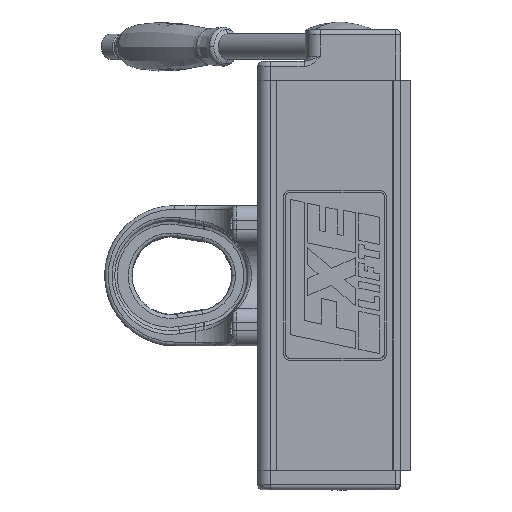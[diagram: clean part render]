
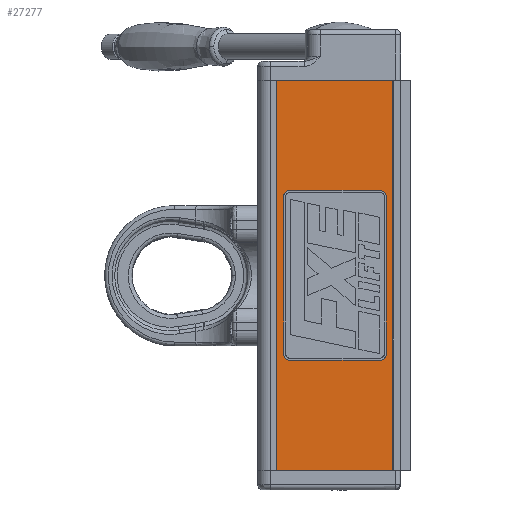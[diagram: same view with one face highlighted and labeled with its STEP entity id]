
A CAD part, left-side view. The second image highlights one B-rep face of the part: STEP entity #27277.
In plain terms, the highlighted planar face has unit normal (-1, 0, 0).
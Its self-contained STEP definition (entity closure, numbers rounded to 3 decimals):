
#244 = CARTESIAN_POINT ( 'NONE',  ( -75.5, 49.5, -152.5 ) ) ;
#426 = LINE ( 'NONE', #37227, #18200 ) ;
#702 = CARTESIAN_POINT ( 'NONE',  ( -75.5, -36.75, 64.706 ) ) ;
#1469 = DIRECTION ( 'NONE',  ( 0., 0., -1. ) ) ;
#1785 = EDGE_CURVE ( 'NONE', #39407, #15661, #6315, .T. ) ;
#1800 = LINE ( 'NONE', #28101, #28352 ) ;
#2101 = CARTESIAN_POINT ( 'NONE',  ( -75.5, 38.383, 66.969 ) ) ;
#3055 = CARTESIAN_POINT ( 'NONE',  ( -75.5, -36.75, 61.943 ) ) ;
#3798 = LINE ( 'NONE', #33505, #33919 ) ;
#3818 = VECTOR ( 'NONE', #15056, 1000. ) ;
#3877 = ORIENTED_EDGE ( 'NONE', *, *, #36248, .T. ) ;
#4168 = ORIENTED_EDGE ( 'NONE', *, *, #18875, .T. ) ;
#4891 = CARTESIAN_POINT ( 'NONE',  ( -75.5, -42.5, -152.5 ) ) ;
#5594 = DIRECTION ( 'NONE',  ( 0., -1., 0. ) ) ;
#6315 = LINE ( 'NONE', #244, #24052 ) ;
#6884 = VECTOR ( 'NONE', #17186, 1000. ) ;
#6902 = ORIENTED_EDGE ( 'NONE', *, *, #15271, .T. ) ;
#7524 = PLANE ( 'NONE',  #14653 ) ;
#7880 = VERTEX_POINT ( 'NONE', #39446 ) ;
#8067 = VERTEX_POINT ( 'NONE', #20602 ) ;
#8348 = B_SPLINE_CURVE_WITH_KNOTS ( 'NONE', 3,
 ( #13970, #14417, #34420, #14566 ),
 .UNSPECIFIED., .F., .F.,
 ( 4, 4 ),
 ( 7., 8. ),
 .UNSPECIFIED. ) ;
#9636 = ORIENTED_EDGE ( 'NONE', *, *, #18952, .T. ) ;
#9921 = VERTEX_POINT ( 'NONE', #37942 ) ;
#10838 = CARTESIAN_POINT ( 'NONE',  ( -75.5, -31.384, -66.469 ) ) ;
#11559 = CARTESIAN_POINT ( 'NONE',  ( -75.5, -36.75, -61.443 ) ) ;
#12756 = EDGE_CURVE ( 'NONE', #27988, #9921, #3798, .T. ) ;
#12908 = LINE ( 'NONE', #4891, #21828 ) ;
#13820 = CARTESIAN_POINT ( 'NONE',  ( -75.5, 3.5, 66.969 ) ) ;
#13970 = CARTESIAN_POINT ( 'NONE',  ( -75.5, 38.383, -66.469 ) ) ;
#14358 = DIRECTION ( 'NONE',  ( 1., 0., 0. ) ) ;
#14417 = CARTESIAN_POINT ( 'NONE',  ( -75.5, 41.335, -66.469 ) ) ;
#14448 = EDGE_CURVE ( 'NONE', #34956, #20292, #20903, .T. ) ;
#14566 = CARTESIAN_POINT ( 'NONE',  ( -75.5, 43.75, -61.443 ) ) ;
#14653 = AXIS2_PLACEMENT_3D ( 'NONE', #34225, #14358, #37504 ) ;
#14724 = B_SPLINE_CURVE_WITH_KNOTS ( 'NONE', 3,
 ( #16318, #42906, #36417, #16607 ),
 .UNSPECIFIED., .F., .F.,
 ( 4, 4 ),
 ( 5., 6. ),
 .UNSPECIFIED. ) ;
#15056 = DIRECTION ( 'NONE',  ( 0., 0., 1. ) ) ;
#15271 = EDGE_CURVE ( 'NONE', #20292, #29202, #33956, .T. ) ;
#15538 = ORIENTED_EDGE ( 'NONE', *, *, #20455, .T. ) ;
#15661 = VERTEX_POINT ( 'NONE', #37093 ) ;
#15710 = CARTESIAN_POINT ( 'NONE',  ( -75.5, 43.75, 61.943 ) ) ;
#16318 = CARTESIAN_POINT ( 'NONE',  ( -75.5, -36.75, -61.443 ) ) ;
#16607 = CARTESIAN_POINT ( 'NONE',  ( -75.5, -31.384, -66.469 ) ) ;
#17186 = DIRECTION ( 'NONE',  ( 0., -1., 0. ) ) ;
#17460 = DIRECTION ( 'NONE',  ( 0., 0., 1. ) ) ;
#17521 = CARTESIAN_POINT ( 'NONE',  ( -75.5, -31.384, 66.969 ) ) ;
#18200 = VECTOR ( 'NONE', #17460, 1000. ) ;
#18239 = DIRECTION ( 'NONE',  ( 0., 1., 0. ) ) ;
#18705 = CARTESIAN_POINT ( 'NONE',  ( -75.5, 43.75, 64.707 ) ) ;
#18875 = EDGE_CURVE ( 'NONE', #8067, #35969, #29295, .T. ) ;
#18952 = EDGE_CURVE ( 'NONE', #18977, #23916, #26978, .T. ) ;
#18977 = VERTEX_POINT ( 'NONE', #15710 ) ;
#19065 = EDGE_CURVE ( 'NONE', #23916, #34956, #33372, .T. ) ;
#19167 = EDGE_CURVE ( 'NONE', #9921, #7880, #8348, .T. ) ;
#20292 = VERTEX_POINT ( 'NONE', #3055 ) ;
#20455 = EDGE_CURVE ( 'NONE', #7880, #18977, #426, .T. ) ;
#20535 = ORIENTED_EDGE ( 'NONE', *, *, #14448, .T. ) ;
#20602 = CARTESIAN_POINT ( 'NONE',  ( -75.5, -42.5, -152.5 ) ) ;
#20675 = CARTESIAN_POINT ( 'NONE',  ( -75.5, -34.334, 66.969 ) ) ;
#20903 = B_SPLINE_CURVE_WITH_KNOTS ( 'NONE', 3,
 ( #40435, #20675, #702, #24017 ),
 .UNSPECIFIED., .F., .F.,
 ( 4, 4 ),
 ( 3., 4. ),
 .UNSPECIFIED. ) ;
#21204 = ORIENTED_EDGE ( 'NONE', *, *, #19065, .T. ) ;
#21828 = VECTOR ( 'NONE', #5594, 1000. ) ;
#22058 = CARTESIAN_POINT ( 'NONE',  ( -75.5, 43.75, 61.943 ) ) ;
#22267 = EDGE_LOOP ( 'NONE', ( #36263, #15538, #9636, #21204, #20535, #6902, #33836, #40663 ) ) ;
#23916 = VERTEX_POINT ( 'NONE', #24900 ) ;
#24017 = CARTESIAN_POINT ( 'NONE',  ( -75.5, -36.75, 61.943 ) ) ;
#24052 = VECTOR ( 'NONE', #39825, 1000. ) ;
#24572 = ORIENTED_EDGE ( 'NONE', *, *, #26474, .T. ) ;
#24900 = CARTESIAN_POINT ( 'NONE',  ( -75.5, 38.383, 66.969 ) ) ;
#24968 = CARTESIAN_POINT ( 'NONE',  ( -75.5, -42.5, -152.5 ) ) ;
#26474 = EDGE_CURVE ( 'NONE', #35969, #39407, #1800, .T. ) ;
#26978 = B_SPLINE_CURVE_WITH_KNOTS ( 'NONE', 3,
 ( #22058, #18705, #31746, #2101 ),
 .UNSPECIFIED., .F., .F.,
 ( 4, 4 ),
 ( 1., 2. ),
 .UNSPECIFIED. ) ;
#27277 = ADVANCED_FACE ( 'NONE', ( #35438, #34431 ), #7524, .F. ) ;
#27468 = ORIENTED_EDGE ( 'NONE', *, *, #1785, .T. ) ;
#27988 = VERTEX_POINT ( 'NONE', #10838 ) ;
#28101 = CARTESIAN_POINT ( 'NONE',  ( -75.5, -42.5, 153. ) ) ;
#28210 = CARTESIAN_POINT ( 'NONE',  ( -75.5, 49.5, 153. ) ) ;
#28352 = VECTOR ( 'NONE', #18239, 1000. ) ;
#29202 = VERTEX_POINT ( 'NONE', #11559 ) ;
#29295 = LINE ( 'NONE', #24968, #3818 ) ;
#31746 = CARTESIAN_POINT ( 'NONE',  ( -75.5, 41.333, 66.969 ) ) ;
#33372 = LINE ( 'NONE', #13820, #6884 ) ;
#33505 = CARTESIAN_POINT ( 'NONE',  ( -75.5, 3.5, -66.469 ) ) ;
#33836 = ORIENTED_EDGE ( 'NONE', *, *, #36496, .T. ) ;
#33919 = VECTOR ( 'NONE', #37513, 1000. ) ;
#33956 = LINE ( 'NONE', #37858, #41637 ) ;
#34225 = CARTESIAN_POINT ( 'NONE',  ( -75.5, 3.5, 0.25 ) ) ;
#34420 = CARTESIAN_POINT ( 'NONE',  ( -75.5, 43.75, -64.207 ) ) ;
#34431 = FACE_BOUND ( 'NONE', #22267, .T. ) ;
#34956 = VERTEX_POINT ( 'NONE', #17521 ) ;
#35438 = FACE_OUTER_BOUND ( 'NONE', #37774, .T. ) ;
#35969 = VERTEX_POINT ( 'NONE', #42816 ) ;
#36248 = EDGE_CURVE ( 'NONE', #15661, #8067, #12908, .T. ) ;
#36263 = ORIENTED_EDGE ( 'NONE', *, *, #19167, .T. ) ;
#36417 = CARTESIAN_POINT ( 'NONE',  ( -75.5, -34.336, -66.469 ) ) ;
#36496 = EDGE_CURVE ( 'NONE', #29202, #27988, #14724, .T. ) ;
#37093 = CARTESIAN_POINT ( 'NONE',  ( -75.5, 49.5, -152.5 ) ) ;
#37227 = CARTESIAN_POINT ( 'NONE',  ( -75.5, 43.75, 0.25 ) ) ;
#37504 = DIRECTION ( 'NONE',  ( 0., 1., 0. ) ) ;
#37513 = DIRECTION ( 'NONE',  ( 0., 1., 0. ) ) ;
#37774 = EDGE_LOOP ( 'NONE', ( #24572, #27468, #3877, #4168 ) ) ;
#37858 = CARTESIAN_POINT ( 'NONE',  ( -75.5, -36.75, 0.25 ) ) ;
#37942 = CARTESIAN_POINT ( 'NONE',  ( -75.5, 38.383, -66.469 ) ) ;
#39407 = VERTEX_POINT ( 'NONE', #28210 ) ;
#39446 = CARTESIAN_POINT ( 'NONE',  ( -75.5, 43.75, -61.443 ) ) ;
#39825 = DIRECTION ( 'NONE',  ( 0., 0., -1. ) ) ;
#40435 = CARTESIAN_POINT ( 'NONE',  ( -75.5, -31.384, 66.969 ) ) ;
#40663 = ORIENTED_EDGE ( 'NONE', *, *, #12756, .T. ) ;
#41637 = VECTOR ( 'NONE', #1469, 1000. ) ;
#42816 = CARTESIAN_POINT ( 'NONE',  ( -75.5, -42.5, 153. ) ) ;
#42906 = CARTESIAN_POINT ( 'NONE',  ( -75.5, -36.75, -64.206 ) ) ;
